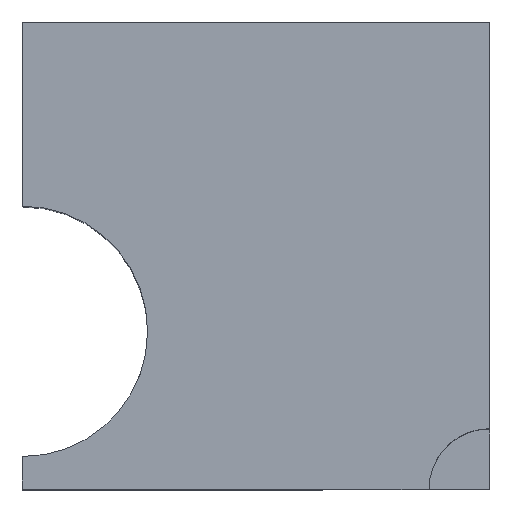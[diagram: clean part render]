
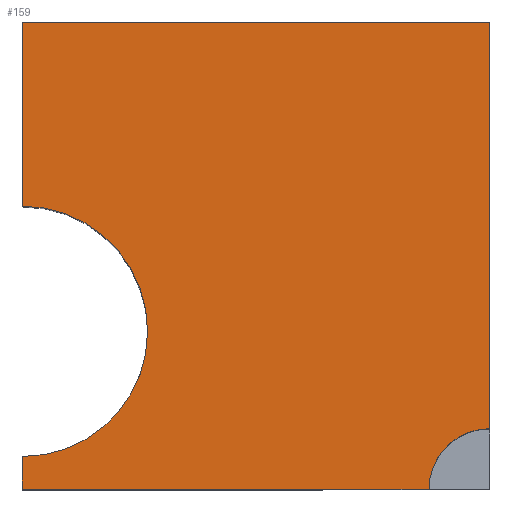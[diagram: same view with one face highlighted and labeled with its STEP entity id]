
A CAD part, top view. The second image highlights one B-rep face of the part: STEP entity #159.
In plain terms, the highlighted planar face has unit normal (0, 0, 1).
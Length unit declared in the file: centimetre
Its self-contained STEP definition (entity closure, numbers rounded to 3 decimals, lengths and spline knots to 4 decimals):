
#13 = EDGE_CURVE ( 'NONE', #1008, #512, #946, .T. ) ;
#40 = ORIENTED_EDGE ( 'NONE', *, *, #13, .T. ) ;
#41 = CARTESIAN_POINT ( 'NONE',  ( 0., 337.9142, 1000. ) ) ;
#49 = CIRCLE ( 'NONE', #656, 267.9939 ) ;
#52 = CARTESIAN_POINT ( 'NONE',  ( 0., 1000., 1000. ) ) ;
#64 = FACE_OUTER_BOUND ( 'NONE', #870, .T. ) ;
#83 = DIRECTION ( 'NONE',  ( 1., 0., 0. ) ) ;
#86 = DIRECTION ( 'NONE',  ( 0., -1., 0. ) ) ;
#104 = LINE ( 'NONE', #552, #719 ) ;
#117 = VERTEX_POINT ( 'NONE', #584 ) ;
#124 = VECTOR ( 'NONE', #136, 100. ) ;
#132 = ORIENTED_EDGE ( 'NONE', *, *, #809, .T. ) ;
#136 = DIRECTION ( 'NONE',  ( -1., 0., 0. ) ) ;
#159 = ADVANCED_FACE ( 'NONE', ( #64 ), #808, .T. ) ;
#187 = EDGE_CURVE ( 'NONE', #727, #501, #386, .T. ) ;
#244 = VECTOR ( 'NONE', #751, 100. ) ;
#254 = CARTESIAN_POINT ( 'NONE',  ( 0., 1000., 1000. ) ) ;
#294 = EDGE_CURVE ( 'NONE', #117, #512, #559, .T. ) ;
#308 = EDGE_CURVE ( 'NONE', #598, #501, #533, .T. ) ;
#322 = LINE ( 'NONE', #52, #1060 ) ;
#336 = VECTOR ( 'NONE', #86, 100. ) ;
#385 = CARTESIAN_POINT ( 'NONE',  ( 0., 605.9081, 1000. ) ) ;
#386 = CIRCLE ( 'NONE', #659, 267.9939 ) ;
#415 = DIRECTION ( 'NONE',  ( 0., -1., 0. ) ) ;
#442 = EDGE_CURVE ( 'NONE', #117, #1081, #104, .T. ) ;
#443 = CARTESIAN_POINT ( 'NONE',  ( 0., 0., 1000. ) ) ;
#466 = DIRECTION ( 'NONE',  ( 0., 1., 0. ) ) ;
#499 = ORIENTED_EDGE ( 'NONE', *, *, #187, .F. ) ;
#501 = VERTEX_POINT ( 'NONE', #385 ) ;
#507 = AXIS2_PLACEMENT_3D ( 'NONE', #443, #620, #987 ) ;
#512 = VERTEX_POINT ( 'NONE', #1021 ) ;
#516 = VERTEX_POINT ( 'NONE', #1117 ) ;
#530 = DIRECTION ( 'NONE',  ( 1., 0., 0. ) ) ;
#533 = LINE ( 'NONE', #922, #336 ) ;
#541 = AXIS2_PLACEMENT_3D ( 'NONE', #882, #907, #83 ) ;
#552 = CARTESIAN_POINT ( 'NONE',  ( 1000., 1000., 1000. ) ) ;
#559 = CIRCLE ( 'NONE', #541, 129.6038 ) ;
#584 = CARTESIAN_POINT ( 'NONE',  ( 1000., 129.6038, 1000. ) ) ;
#598 = VERTEX_POINT ( 'NONE', #254 ) ;
#599 = CARTESIAN_POINT ( 'NONE',  ( 0., 1000., 1000. ) ) ;
#603 = DIRECTION ( 'NONE',  ( 0., 0., 1. ) ) ;
#615 = DIRECTION ( 'NONE',  ( 0., 0., 1. ) ) ;
#620 = DIRECTION ( 'NONE',  ( 0., 0., 1. ) ) ;
#625 = CARTESIAN_POINT ( 'NONE',  ( 1000., 1000., 1000. ) ) ;
#656 = AXIS2_PLACEMENT_3D ( 'NONE', #41, #603, #944 ) ;
#659 = AXIS2_PLACEMENT_3D ( 'NONE', #895, #615, #530 ) ;
#714 = CARTESIAN_POINT ( 'NONE',  ( 0., 0., 1000. ) ) ;
#719 = VECTOR ( 'NONE', #466, 100. ) ;
#727 = VERTEX_POINT ( 'NONE', #764 ) ;
#751 = DIRECTION ( 'NONE',  ( 1., 0., 0. ) ) ;
#764 = CARTESIAN_POINT ( 'NONE',  ( 267.9939, 337.9142, 1000. ) ) ;
#781 = LINE ( 'NONE', #599, #124 ) ;
#808 = PLANE ( 'NONE',  #507 ) ;
#809 = EDGE_CURVE ( 'NONE', #516, #1008, #322, .T. ) ;
#812 = EDGE_CURVE ( 'NONE', #1081, #598, #781, .T. ) ;
#861 = EDGE_CURVE ( 'NONE', #516, #727, #49, .T. ) ;
#864 = CARTESIAN_POINT ( 'NONE',  ( 0., 0., 1000. ) ) ;
#870 = EDGE_LOOP ( 'NONE', ( #985, #880, #1152, #1144, #499, #1039, #132, #40 ) ) ;
#880 = ORIENTED_EDGE ( 'NONE', *, *, #442, .T. ) ;
#882 = CARTESIAN_POINT ( 'NONE',  ( 1000., 0., 1000. ) ) ;
#895 = CARTESIAN_POINT ( 'NONE',  ( 0., 337.9142, 1000. ) ) ;
#907 = DIRECTION ( 'NONE',  ( 0., 0., 1. ) ) ;
#922 = CARTESIAN_POINT ( 'NONE',  ( 0., 1000., 1000. ) ) ;
#944 = DIRECTION ( 'NONE',  ( 1., 0., 0. ) ) ;
#946 = LINE ( 'NONE', #864, #244 ) ;
#985 = ORIENTED_EDGE ( 'NONE', *, *, #294, .F. ) ;
#987 = DIRECTION ( 'NONE',  ( 1., 0., 0. ) ) ;
#1008 = VERTEX_POINT ( 'NONE', #714 ) ;
#1021 = CARTESIAN_POINT ( 'NONE',  ( 870.3962, 0., 1000. ) ) ;
#1039 = ORIENTED_EDGE ( 'NONE', *, *, #861, .F. ) ;
#1060 = VECTOR ( 'NONE', #415, 100. ) ;
#1081 = VERTEX_POINT ( 'NONE', #625 ) ;
#1117 = CARTESIAN_POINT ( 'NONE',  ( 0., 69.9203, 1000. ) ) ;
#1144 = ORIENTED_EDGE ( 'NONE', *, *, #308, .T. ) ;
#1152 = ORIENTED_EDGE ( 'NONE', *, *, #812, .T. ) ;
